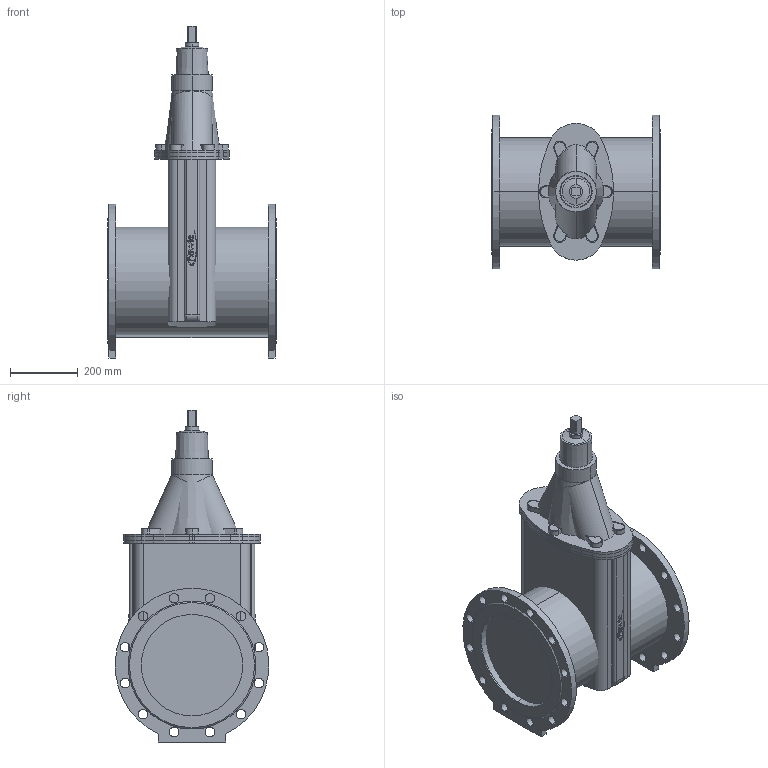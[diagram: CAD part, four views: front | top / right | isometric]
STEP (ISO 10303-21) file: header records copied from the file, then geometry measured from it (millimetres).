
FILE_DESCRIPTION(('STEP AP214'),'1');
FILE_NAME('S:/EK/USER/CAT6/3DHomepage/4700E2/4700E2-PN16-DN300.STP','2012-04-23T12:43:24',(' '),(' '),'Spatial InterOp 3D',' ',' ');
FILE_SCHEMA(('automotive_design'));
Length unit declared in the file: millimetre
Products named in the file (50): 3D-Objekt
Bounding box: 500 x 454.19 x 982.5 mm (x, y, z)
Volume: 73956472.5 mm3; surface area: 2921050.4 mm2
Topology: 50 solids, 50 shells, 504 faces, 1206 edges, 804 vertices
Faces by surface type: plane 246, cylinder 234, cone 10, bspline 8, torus 6
Entity records: 20220 total; most frequent: DIRECTION 2820, CARTESIAN_POINT 2700, ORIENTED_EDGE 2412, EDGE_CURVE 1206, AXIS2_PLACEMENT_3D 1068, VERTEX_POINT 804, LINE 684, VECTOR 684
